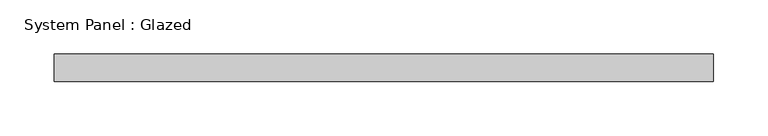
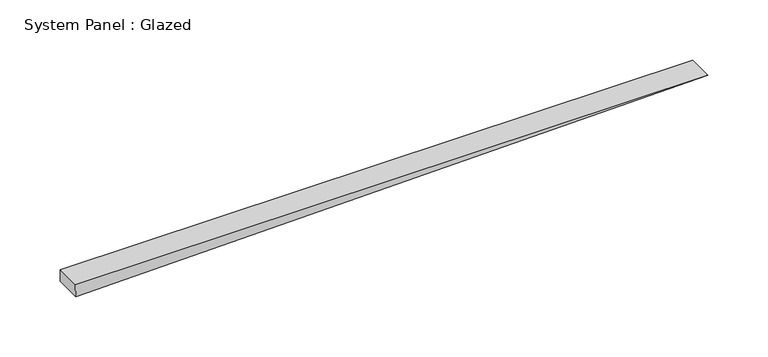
"""IFC4 building model written with IfcOpenShell, lengths in millimetres: plate geometry, System Panel : Glazed."""

from ifc_helpers import new_model, si_unit, frame, origin, place, context, project, spatial, polyline, outline, extrude, source, transform, mapped, element, save


def system_panel_glazed_e5d92528(model_context):
    return source(origin(), model_context, "Body", "SweptSolid", [
        extrude(outline(polyline([(0.0, -303.4116416), (12.053882, 303.5318259), (12.089166, -303.5318259), (0.0, -303.4116416)])), frame((0.0, -44.45, 0.0), z_axis=(0.0, 1.0, 0.0), x_axis=(0.0, 0.0, 1.0)), (0.0, 0.0, 1.0), 25.4),
    ])


if __name__ == "__main__":
    model = new_model("IFC4")
    model_context = context("Model", 3, world=origin())
    ifc_project = project(units=[si_unit("LENGTHUNIT", "METRE", prefix="MILLI")], contexts=[model_context])
    site = spatial("IfcSite", under=ifc_project)
    building = spatial("IfcBuilding", under=site)
    placement = place(None, origin())
    system_panel_glazed_shape = system_panel_glazed_e5d92528(model_context)
    element("IfcPlate", 1, ObjectType="System Panel : Glazed", at=placement, inside=building, context=model_context, shape_type="MappedRepresentation", body=[
        mapped(system_panel_glazed_shape, transform((0.0, 0.0, 0.0), x_axis=(1.0, 0.0, 0.0), y_axis=(0.0, 1.0, 0.0), z_axis=(0.0, 0.0, 1.0))),
    ])
    save(model, "model.ifc")
